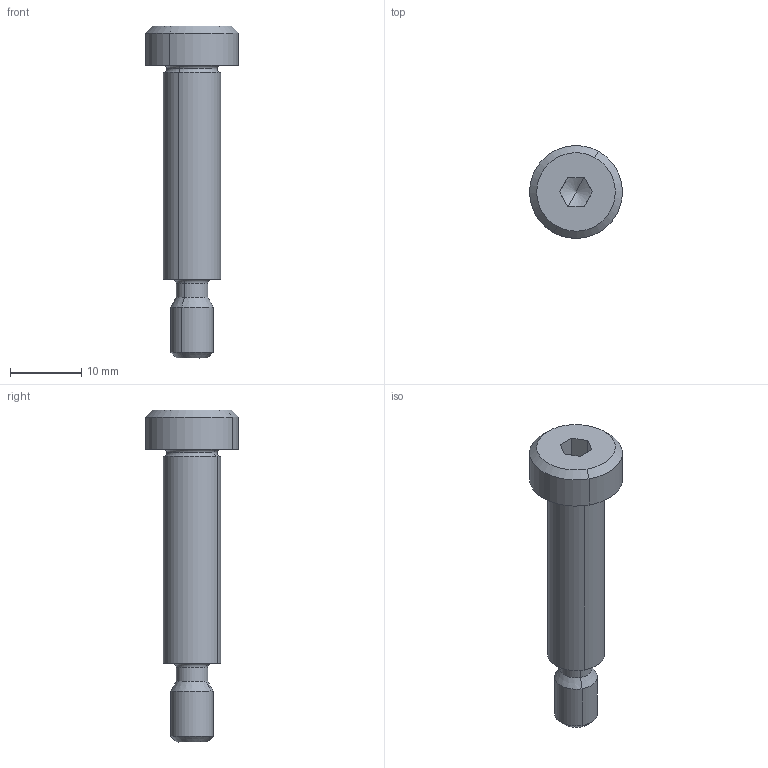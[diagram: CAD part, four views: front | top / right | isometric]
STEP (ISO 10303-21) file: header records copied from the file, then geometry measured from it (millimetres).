
FILE_DESCRIPTION(('3DEXPERIENCE STEP','CAx-IF Rec.Pracs.--- Model Styling and Organization---1.5--- 2016-08-15','CAx-IF Rec.Pracs.---Supplemental Geometry---1.0---2011-11-01','CAx-IF Rec.Pracs.--- Composite Materials ---3.4---2017-06-13','CAx-IF Rec.Pracs.---Tessellated 3D Geometry---1.0---2015-12-17'),'2;1');
FILE_NAME('\\?\D:\School\CarTech\CTU.25\Tutorials\Model\OEM\Fitted_Bolet_M6_8x30.stp','2024-09-26T02:49:22+00:00',('none'),('none'),'3DEXPERIENCE Platform3DEXPERIENCE R2024x HotFix 4.24','3DEXPERIENCE Platform STEP AP242 v3','none');
FILE_SCHEMA(('AP242_MANAGED_MODEL_BASED_3D_ENGINEERING_MIM_LF {1 0 10303 442 1 1 4}'));
Length unit declared in the file: millimetre
Products named in the file (1): Screw_ISO_7379_M6_8_30
Bounding box: 13 x 13 x 46.5 mm (x, y, z)
Volume: 2418.4 mm3; surface area: 1480.1 mm2
Topology: 1 solids, 1 shells, 38 faces, 84 edges, 48 vertices
Faces by surface type: cone 12, cylinder 10, plane 10, torus 6
Entity records: 1008 total; most frequent: CARTESIAN_POINT 248, ORIENTED_EDGE 160, DIRECTION 122, EDGE_CURVE 80, AXIS2_PLACEMENT_3D 64, VERTEX_POINT 48, EDGE_LOOP 42, CIRCLE 38
